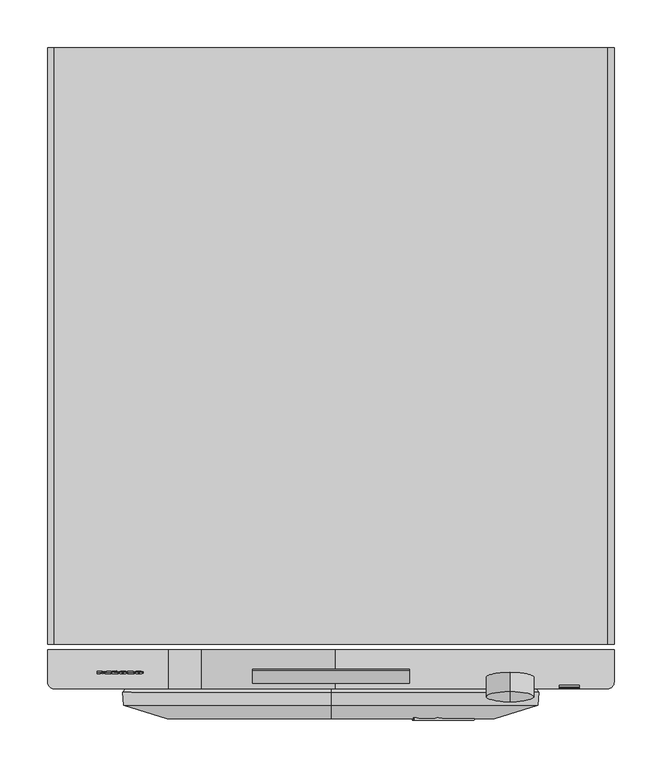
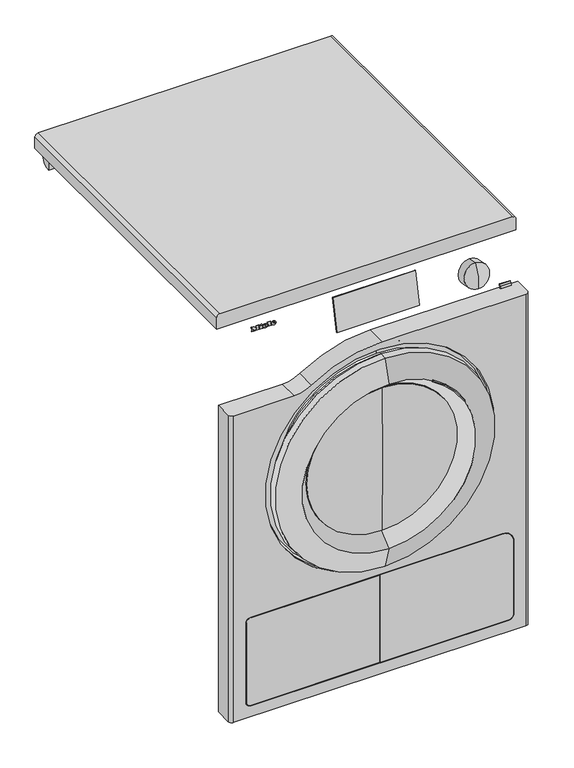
"""IFC4 building model written with IfcOpenShell, lengths in millimetres: proxy geometry, 11137100_RU_PDR507EL_SST : 52507452_RU_11137100_PDR507EL_SST."""

from ifc_helpers import new_model, si_unit, point, frame, frame_2d, origin, place, context, project, spatial, polyline, circle_curve, ellipse_curve, trimmed, segment, composite_curve, outline, extrude, source, transform, mapped, element, save
from ifc_brep_helpers import plane_surface, cylinder_surface, revolved_surface, extruded_surface, advanced_brep


def specialty_equipment_d1bbccee(model_context):
    return source(origin(), model_context, "Body", "SolidModel", [
        advanced_brep(
        [(-202.64, -660.6785086, 811.5729364), (-202.64, -660.5105159, 812.3632796), (-197.288, -660.5105159, 812.3632796), (-206.6, -660.5105159, 812.3632796), (-204.4, -661.0727091, 809.7183685), (-197.424, -660.6785086, 811.5729364), (-199.84, -660.6785086, 811.5729364), (-201.744, -660.8647975, 810.6965161), (-202.64, -660.2976144, 813.3649028), (-202.64, -660.1163154, 814.2178475), (-201.272, -660.1163154, 814.2178475), (-201.272, -660.2976144, 813.3649028), (-202.64, -659.700361, 811.3650247), (-201.744, -659.8866499, 810.4886044), (-199.84, -659.700361, 811.3650247), (-197.424, -659.700361, 811.3650247), (-204.4, -660.0945615, 809.5104568), (-206.6, -659.5323683, 812.1553679), (-197.288, -659.5323683, 812.1553679), (-202.64, -659.5323683, 812.1553679), (-202.64, -659.3194668, 813.1569911), (-201.272, -659.3194668, 813.1569911), (-201.272, -659.1381678, 814.0099358), (-202.64, -659.1381678, 814.0099358)],
        [
            (0, 1),
            (1, 2),
            (2, 3, ellipse_curve(frame((-201.944, -660.5105159, 812.3632796), z_axis=(0.0, -0.9781476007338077, 0.2079116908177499), x_axis=(-1.0, 0.0, 0.0)), 4.656, 3.848)),
            (3, 4, circle_curve(frame((-203.5039564, -660.453964, 812.6293358), z_axis=(0.0, -0.9781476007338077, 0.2079116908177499), x_axis=(0.0, -0.2079116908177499, -0.9781476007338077)), 3.1079688)),
            (4, 5, circle_curve(frame((-202.0372064, -660.0148545, 814.6951835), z_axis=(0.0, -0.9781476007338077, 0.2079116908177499), x_axis=(0.0, -0.2079116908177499, -0.9781476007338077)), 5.6098607)),
            (5, 6),
            (6, 7, circle_curve(frame((-201.3529412, -660.5238223, 812.3006782), z_axis=(0.0, 0.9781476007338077, -0.2079116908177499), x_axis=(0.0, -0.2079116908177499, -0.9781476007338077)), 1.6859795)),
            (7, 0, circle_curve(frame((-201.744, -660.6785086, 811.5729364), z_axis=(0.0, 0.9781476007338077, -0.2079116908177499), x_axis=(0.0, -0.2079116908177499, -0.9781476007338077)), 0.896)),
            (8, 9),
            (9, 10, circle_curve(frame((-201.956, -660.1163154, 814.2178475), z_axis=(0.0, 0.9781476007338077, -0.2079116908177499), x_axis=(0.0, -0.2079116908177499, -0.9781476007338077)), 0.684)),
            (10, 11),
            (11, 8),
            (12, 13, circle_curve(frame((-201.744, -659.700361, 811.3650247), z_axis=(0.0, -0.9781476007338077, 0.2079116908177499), x_axis=(0.0, -0.2079116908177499, -0.9781476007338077)), 0.896)),
            (13, 14, circle_curve(frame((-201.3529412, -659.5456747, 812.0927665), z_axis=(0.0, -0.9781476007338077, 0.2079116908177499), x_axis=(0.0, -0.2079116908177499, -0.9781476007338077)), 1.6859795)),
            (14, 15),
            (15, 16, circle_curve(frame((-202.0372064, -659.0367069, 814.4872718), z_axis=(0.0, 0.9781476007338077, -0.2079116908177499), x_axis=(0.0, -0.2079116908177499, -0.9781476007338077)), 5.6098607)),
            (16, 17, circle_curve(frame((-203.5039564, -659.4758164, 812.4214241), z_axis=(0.0, 0.9781476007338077, -0.2079116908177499), x_axis=(0.0, -0.2079116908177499, -0.9781476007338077)), 3.1079688)),
            (17, 18, ellipse_curve(frame((-201.944, -659.5323683, 812.1553679), z_axis=(0.0, 0.9781476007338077, -0.2079116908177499), x_axis=(-1.0, 0.0, 0.0)), 4.656, 3.848)),
            (18, 19),
            (19, 12),
            (20, 21),
            (21, 22),
            (22, 23, circle_curve(frame((-201.956, -659.1381678, 814.0099358), z_axis=(0.0, -0.9781476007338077, 0.2079116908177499), x_axis=(0.0, -0.2079116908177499, -0.9781476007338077)), 0.684)),
            (23, 20),
            (0, 12),
            (19, 1),
            (18, 2),
            (5, 15),
            (14, 6),
            (17, 3),
            (13, 7),
            (16, 4),
            (8, 20),
            (23, 9),
            (22, 10),
            (21, 11),
        ],
        [
            plane_surface(frame((-202.64, -660.5105159, 812.3632796), z_axis=(0.0, -0.9781476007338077, 0.2079116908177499), x_axis=(0.0, 0.2079116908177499, 0.9781476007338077))),
            plane_surface(frame((-202.64, -659.5323683, 812.1553679), z_axis=(0.0, 0.9781476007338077, -0.2079116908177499), x_axis=(0.0, -0.2079116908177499, -0.9781476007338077))),
            plane_surface(frame((-202.64, -660.6785086, 811.5729364), z_axis=(1.0000000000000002, 0.0, 0.0), x_axis=(0.0, 0.978147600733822, -0.20791169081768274))),
            plane_surface(frame((-202.64, -660.5105159, 812.3632796), z_axis=(0.0, -0.20791169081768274, -0.978147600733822), x_axis=(0.0, 0.978147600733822, -0.20791169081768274))),
            plane_surface(frame((-197.424, -660.6785086, 811.5729364), z_axis=(0.0, 0.20791169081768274, 0.978147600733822), x_axis=(0.0, 0.978147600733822, -0.20791169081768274))),
            extruded_surface(trimmed(ellipse_curve(frame((-201.944, -658.5542207, 811.9474562), z_axis=(0.0, -0.9781476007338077, 0.2079116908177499), x_axis=(-1.0, 0.0, 0.0)), 4.656, 3.848), [point((-197.288, -658.5542207, 811.9474562))], [point((-206.6, -658.5542207, 811.9474562))], True, "CARTESIAN"), (0.0, -0.9781476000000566, 0.20791169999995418), 1.0000000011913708),
            revolved_surface(polyline([(-201.3529412, -659.896209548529, 810.4436296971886), (-201.3529412, -660.8743571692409, 810.6515413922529)]), (-201.3529412, -659.5456747, 812.0927665), (0.0, 0.9781476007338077, -0.2079116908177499)),
            revolved_surface(polyline([(-201.744, -659.8866498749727, 810.4886044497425), (-201.744, -660.8647974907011, 810.6965161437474)]), (-201.744, -659.700361, 811.3650247), (0.0, 0.9781476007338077, -0.2079116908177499)),
            cylinder_surface(frame((-203.5039564, -659.4758164, 812.4214241), z_axis=(0.0, -0.9781476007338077, 0.2079116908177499), x_axis=(0.0, -0.2079116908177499, -0.9781476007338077)), 3.1079688),
            cylinder_surface(frame((-202.0372064, -659.0367069, 814.4872718), z_axis=(0.0, -0.9781476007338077, 0.2079116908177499), x_axis=(0.0, -0.2079116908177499, -0.9781476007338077)), 5.6098607),
            plane_surface(frame((-202.64, -660.2976144, 813.3649028), z_axis=(1.0000000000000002, 0.0, 0.0), x_axis=(0.0, 0.9781476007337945, -0.20791169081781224))),
            revolved_surface(polyline([(-201.956, -659.2803793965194, 813.340882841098), (-201.956, -660.2585269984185, 813.5487945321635)]), (-201.956, -659.1381678, 814.0099358), (0.0, 0.9781476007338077, -0.2079116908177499)),
            plane_surface(frame((-201.272, -660.1163154, 814.2178475), z_axis=(-1.0000000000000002, 0.0, 0.0), x_axis=(0.0, 0.978147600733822, -0.20791169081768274))),
            plane_surface(frame((-201.272, -660.2976144, 813.3649028), z_axis=(0.0, 0.20791169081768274, 0.978147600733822), x_axis=(0.0, 0.978147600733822, -0.20791169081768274))),
        ],
        [
            (0, [[1, 2, 3, 4, 5, 6, 7, 8], [9, 10, 11, 12]]),
            (1, [[13, 14, 15, 16, 17, 18, 19, 20], [21, 22, 23, 24]]),
            (2, [[-1, 25, -20, 26]]),
            (3, [[-2, -26, -19, 27]]),
            (4, [[-6, 28, -15, 29]]),
            (5, [[-3, -27, -18, 30]]),
            (6, [[-7, -29, -14, 31]]),
            (7, [[-8, -31, -13, -25]]),
            (8, [[-4, -30, -17, 32]]),
            (9, [[-5, -32, -16, -28]]),
            (10, [[-9, 33, -24, 34]]),
            (11, [[-10, -34, -23, 35]]),
            (12, [[-11, -35, -22, 36]]),
            (13, [[-12, -36, -21, -33]]),
        ],
    ),
        advanced_brep(
        [(-219.336, -660.6785086, 811.5729364), (-219.336, -660.5105159, 812.3632796), (-213.984, -660.5105159, 812.3632796), (-223.296, -660.5105159, 812.3632796), (-221.096, -661.0727091, 809.7183685), (-214.12, -660.6785086, 811.5729364), (-216.536, -660.6785086, 811.5729364), (-218.44, -660.8647975, 810.6965161), (-219.336, -660.2976144, 813.3649028), (-219.336, -660.1163154, 814.2178475), (-217.968, -660.1163154, 814.2178475), (-217.968, -660.2976144, 813.3649028), (-219.336, -659.700361, 811.3650247), (-218.44, -659.8866499, 810.4886044), (-216.536, -659.700361, 811.3650247), (-214.12, -659.700361, 811.3650247), (-221.096, -660.0945615, 809.5104568), (-223.296, -659.5323683, 812.1553679), (-213.984, -659.5323683, 812.1553679), (-219.336, -659.5323683, 812.1553679), (-219.336, -659.3194668, 813.1569911), (-217.968, -659.3194668, 813.1569911), (-217.968, -659.1381678, 814.0099358), (-219.336, -659.1381678, 814.0099358)],
        [
            (0, 1),
            (1, 2),
            (2, 3, ellipse_curve(frame((-218.64, -660.5105159, 812.3632796), z_axis=(0.0, -0.9781476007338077, 0.2079116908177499), x_axis=(-1.0, 0.0, 0.0)), 4.656, 3.848)),
            (3, 4, circle_curve(frame((-220.1999564, -660.453964, 812.6293358), z_axis=(0.0, -0.9781476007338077, 0.2079116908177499), x_axis=(0.0, -0.2079116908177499, -0.9781476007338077)), 3.1079688)),
            (4, 5, circle_curve(frame((-218.7332064, -660.0148545, 814.6951835), z_axis=(0.0, -0.9781476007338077, 0.2079116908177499), x_axis=(0.0, -0.2079116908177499, -0.9781476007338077)), 5.6098607)),
            (5, 6),
            (6, 7, circle_curve(frame((-218.0489412, -660.5238223, 812.3006782), z_axis=(0.0, 0.9781476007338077, -0.2079116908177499), x_axis=(0.0, -0.2079116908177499, -0.9781476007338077)), 1.6859795)),
            (7, 0, circle_curve(frame((-218.44, -660.6785086, 811.5729364), z_axis=(0.0, 0.9781476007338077, -0.2079116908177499), x_axis=(0.0, -0.2079116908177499, -0.9781476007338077)), 0.896)),
            (8, 9),
            (9, 10, circle_curve(frame((-218.652, -660.1163154, 814.2178475), z_axis=(0.0, 0.9781476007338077, -0.2079116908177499), x_axis=(0.0, -0.2079116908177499, -0.9781476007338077)), 0.684)),
            (10, 11),
            (11, 8),
            (12, 13, circle_curve(frame((-218.44, -659.700361, 811.3650247), z_axis=(0.0, -0.9781476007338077, 0.2079116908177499), x_axis=(0.0, -0.2079116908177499, -0.9781476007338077)), 0.896)),
            (13, 14, circle_curve(frame((-218.0489412, -659.5456747, 812.0927665), z_axis=(0.0, -0.9781476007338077, 0.2079116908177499), x_axis=(0.0, -0.2079116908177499, -0.9781476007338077)), 1.6859795)),
            (14, 15),
            (15, 16, circle_curve(frame((-218.7332064, -659.0367069, 814.4872718), z_axis=(0.0, 0.9781476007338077, -0.2079116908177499), x_axis=(0.0, -0.2079116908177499, -0.9781476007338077)), 5.6098607)),
            (16, 17, circle_curve(frame((-220.1999564, -659.4758164, 812.4214241), z_axis=(0.0, 0.9781476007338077, -0.2079116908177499), x_axis=(0.0, -0.2079116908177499, -0.9781476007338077)), 3.1079688)),
            (17, 18, ellipse_curve(frame((-218.64, -659.5323683, 812.1553679), z_axis=(0.0, 0.9781476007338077, -0.2079116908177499), x_axis=(-1.0, 0.0, 0.0)), 4.656, 3.848)),
            (18, 19),
            (19, 12),
            (20, 21),
            (21, 22),
            (22, 23, circle_curve(frame((-218.652, -659.1381678, 814.0099358), z_axis=(0.0, -0.9781476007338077, 0.2079116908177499), x_axis=(0.0, -0.2079116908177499, -0.9781476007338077)), 0.684)),
            (23, 20),
            (0, 12),
            (19, 1),
            (18, 2),
            (5, 15),
            (14, 6),
            (17, 3),
            (13, 7),
            (16, 4),
            (8, 20),
            (23, 9),
            (22, 10),
            (21, 11),
        ],
        [
            plane_surface(frame((-219.336, -660.5105159, 812.3632796), z_axis=(0.0, -0.9781476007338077, 0.2079116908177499), x_axis=(0.0, 0.2079116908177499, 0.9781476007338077))),
            plane_surface(frame((-219.336, -659.5323683, 812.1553679), z_axis=(0.0, 0.9781476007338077, -0.2079116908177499), x_axis=(0.0, -0.2079116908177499, -0.9781476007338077))),
            plane_surface(frame((-219.336, -660.6785086, 811.5729364), z_axis=(1.0000000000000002, 0.0, 0.0), x_axis=(0.0, 0.978147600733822, -0.20791169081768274))),
            plane_surface(frame((-219.336, -660.5105159, 812.3632796), z_axis=(0.0, -0.20791169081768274, -0.978147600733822), x_axis=(0.0, 0.978147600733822, -0.20791169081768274))),
            plane_surface(frame((-214.12, -660.6785086, 811.5729364), z_axis=(0.0, 0.20791169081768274, 0.978147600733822), x_axis=(0.0, 0.978147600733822, -0.20791169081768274))),
            extruded_surface(trimmed(ellipse_curve(frame((-218.64, -658.5542207, 811.9474562), z_axis=(0.0, -0.9781476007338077, 0.2079116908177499), x_axis=(-1.0, 0.0, 0.0)), 4.656, 3.848), [point((-213.984, -658.5542207, 811.9474562))], [point((-223.296, -658.5542207, 811.9474562))], True, "CARTESIAN"), (0.0, -0.9781476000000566, 0.20791169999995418), 1.0000000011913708),
            revolved_surface(polyline([(-218.0489412, -659.896209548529, 810.4436296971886), (-218.0489412, -660.8743571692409, 810.6515413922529)]), (-218.0489412, -659.5456747, 812.0927665), (0.0, 0.9781476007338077, -0.2079116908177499)),
            revolved_surface(polyline([(-218.44, -659.8866498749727, 810.4886044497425), (-218.44, -660.8647974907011, 810.6965161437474)]), (-218.44, -659.700361, 811.3650247), (0.0, 0.9781476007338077, -0.2079116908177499)),
            cylinder_surface(frame((-220.1999564, -659.4758164, 812.4214241), z_axis=(0.0, -0.9781476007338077, 0.2079116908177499), x_axis=(0.0, -0.2079116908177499, -0.9781476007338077)), 3.1079688),
            cylinder_surface(frame((-218.7332064, -659.0367069, 814.4872718), z_axis=(0.0, -0.9781476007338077, 0.2079116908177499), x_axis=(0.0, -0.2079116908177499, -0.9781476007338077)), 5.6098607),
            plane_surface(frame((-219.336, -660.2976144, 813.3649028), z_axis=(1.0000000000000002, 0.0, 0.0), x_axis=(0.0, 0.9781476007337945, -0.20791169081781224))),
            revolved_surface(polyline([(-218.652, -659.2803793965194, 813.340882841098), (-218.652, -660.2585269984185, 813.5487945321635)]), (-218.652, -659.1381678, 814.0099358), (0.0, 0.9781476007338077, -0.2079116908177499)),
            plane_surface(frame((-217.968, -660.1163154, 814.2178475), z_axis=(-1.0000000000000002, 0.0, 0.0), x_axis=(0.0, 0.978147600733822, -0.20791169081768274))),
            plane_surface(frame((-217.968, -660.2976144, 813.3649028), z_axis=(0.0, 0.20791169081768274, 0.978147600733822), x_axis=(0.0, 0.978147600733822, -0.20791169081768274))),
        ],
        [
            (0, [[1, 2, 3, 4, 5, 6, 7, 8], [9, 10, 11, 12]]),
            (1, [[13, 14, 15, 16, 17, 18, 19, 20], [21, 22, 23, 24]]),
            (2, [[-1, 25, -20, 26]]),
            (3, [[-2, -26, -19, 27]]),
            (4, [[-6, 28, -15, 29]]),
            (5, [[-3, -27, -18, 30]]),
            (6, [[-7, -29, -14, 31]]),
            (7, [[-8, -31, -13, -25]]),
            (8, [[-4, -30, -17, 32]]),
            (9, [[-5, -32, -16, -28]]),
            (10, [[-9, 33, -24, 34]]),
            (11, [[-10, -34, -23, 35]]),
            (12, [[-11, -35, -22, 36]]),
            (13, [[-12, -36, -21, -33]]),
        ],
    ),
        extrude(outline(polyline([(0.0, 0.0), (-0.0109087, -2.9993294), (-1.4390416, -2.9920868), (-1.4315307, 0.0), (0.0, 0.0)])), frame((-228.08, -658.5294023, 816.873952), z_axis=(0.0, -0.9781476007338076, 0.20791169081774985), x_axis=(-0.42472021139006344, 0.18822758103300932, 0.8855411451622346)), (0.0, 0.0, 1.0), 1.0),
        extrude(outline(polyline([(-0.4933908, 2.4141097), (-2.7800844, -2.4601583), (-7.0459742, -0.4588766), (-7.4401146, -1.2990179), (-8.6568709, -0.728194), (-5.976037, 4.9862153), (-4.7592806, 4.4153913), (-5.1636142, 3.5535223), (-2.1941494, 2.16044), (-1.7898157, 3.0223091), (-0.4933908, 2.4141097)])), frame((-228.08, -658.5294023, 816.873952), z_axis=(0.0, -0.9781476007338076, 0.20791169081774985), x_axis=(-0.42472021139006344, 0.18822758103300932, 0.8855411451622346)), (0.0, 0.0, 1.0), 1.0),
        extrude(outline(polyline([(0.0, 0.0), (0.0, -1.3039999), (-5.504, -1.3039999), (-5.504, 5.352), (-6.488, 5.352), (-6.488, 6.696), (0.0, 6.696), (0.0, 5.352), (-0.96, 5.352), (-0.96, 0.0), (0.0, 0.0)])), frame((-213.536, -658.7023849, 816.0601332), z_axis=(0.0, -0.9781476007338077, 0.2079116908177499), x_axis=(-1.0, 0.0, 0.0)), (0.0, 0.0, 1.0), 1.0),
        extrude(outline(polyline([(0.0, 0.0), (0.0, -1.3039999), (-5.576, -1.3039999), (-7.92, 1.6960001), (-10.256, -1.3039999), (-15.128, -1.3039999), (-15.128, 0.0), (-14.112, 0.0), (-14.112, 5.352), (-15.128, 5.352), (-15.128, 6.696), (-8.744, 6.696), (-8.744, 5.352), (-9.728, 5.352), (-9.728, 1.8807777), (-6.136, 6.696), (-2.56, 1.9488753), (-2.56, 5.352), (-3.52, 5.352), (-3.52, 6.696), (0.0, 6.696), (0.0, 5.352), (-0.968, 5.352), (-0.968, 0.0), (0.0, 0.0)])), frame((-246.0, -658.7023849, 816.0601332), z_axis=(0.0, -0.9781476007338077, 0.2079116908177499), x_axis=(-1.0, 0.0, 0.0)), (0.0, 0.0, 1.0), 1.0),
        extrude(outline(composite_curve([segment(trimmed(circle_curve(frame_2d((579.5, 0.0)), 230.0), [point((386.3181818, 124.8230152))], [point((386.3181818, -124.8230152))], True, "CARTESIAN"), True, "CONTINUOUS"), segment(trimmed(circle_curve(frame_2d((469.5, 0.0)), 150.0), [point((386.3181818, -124.8230152))], [point((386.3181818, 124.8230152))], False, "CARTESIAN"), True, "CONTINUOUS")], self_intersect=False)), frame((0.0, -680.8, 0.0), z_axis=(0.0, 1.0, 0.0), x_axis=(0.0, 0.0, 1.0)), (0.0, 0.0, 1.0), 12.6),
        advanced_brep(
        [(86.55, -710.167863, 619.4089974), (86.55, -707.167863, 619.4089974), (149.9089974, -710.167863, 556.05), (149.9089974, -707.167863, 556.05)],
        [
            (0, 1, circle_curve(frame((86.55, -708.667863, 619.4089974), z_axis=(-0.8660254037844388, 0.0, 0.49999999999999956), x_axis=(0.0, 1.0, 0.0)), 1.5)),
            (1, 0, circle_curve(frame((86.55, -708.667863, 619.4089974), z_axis=(-0.8660254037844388, 0.0, 0.49999999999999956), x_axis=(0.0, 1.0, 0.0)), 1.5)),
            (2, 3, circle_curve(frame((149.9089974, -708.667863, 556.05), z_axis=(0.5000000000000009, 0.0, -0.8660254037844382), x_axis=(0.0, 1.0, 0.0)), 1.5)),
            (3, 2, circle_curve(frame((149.9089974, -708.667863, 556.05), z_axis=(0.5000000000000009, 0.0, -0.8660254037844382), x_axis=(0.0, 1.0, 0.0)), 1.5)),
            (2, 0, circle_curve(frame((0.0, -710.167863, 469.5), z_axis=(0.0, -1.0, 0.0), x_axis=(0.49999999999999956, 0.0, 0.8660254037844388)), 173.1)),
            (1, 3, circle_curve(frame((0.0, -707.167863, 469.5), z_axis=(0.0, 1.0, 0.0), x_axis=(0.49999999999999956, 0.0, 0.8660254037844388)), 173.1)),
        ],
        [
            plane_surface(frame((0.0, 1543.3738435, 469.5), z_axis=(-0.8660254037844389, 0.0, 0.4999999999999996), x_axis=(0.4999999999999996, 0.0, 0.8660254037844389))),
            plane_surface(frame((0.0, 1543.3738435, 469.5), z_axis=(0.5000000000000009, 0.0, -0.8660254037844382), x_axis=(0.8660254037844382, 0.0, 0.5000000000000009))),
            revolved_surface(trimmed(ellipse_curve(frame((86.55, -708.667863, 619.4089974), z_axis=(0.8660254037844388, 0.0, -0.49999999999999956), x_axis=(0.0, 1.0, 0.0)), 1.5, 1.5), [point((86.55, -710.167863, 619.4089974))], [point((86.55, -707.167863, 619.4089974))], True, "CARTESIAN"), (0.0, 1543.3738435, 469.5), (0.0, -1.0, 0.0)),
            revolved_surface(trimmed(ellipse_curve(frame((86.55, -708.667863, 619.4089974), z_axis=(0.8660254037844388, 0.0, -0.49999999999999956), x_axis=(0.0, 1.0, 0.0)), 1.5, 1.5), [point((86.55, -707.167863, 619.4089974))], [point((86.55, -710.167863, 619.4089974))], True, "CARTESIAN"), (0.0, 1543.3738435, 469.5), (0.0, -1.0, 0.0)),
        ],
        [
            (0, [[1, 2]]),
            (1, [[3, 4]]),
            (2, [[5, -2, 6, -3]]),
            (3, [[-6, -1, -5, -4]]),
        ],
    ),
        advanced_brep(
        [(0.0, -668.2, 319.5), (0.0, -668.2, 619.5), (0.0, -680.5454628, 619.5), (0.0, -680.5454628, 319.5), (0.0, -668.2, 305.5), (0.0, -668.2, 633.5), (0.0, -665.0, 294.0), (0.0, -665.0, 645.0), (0.0, -665.0, 262.2782663), (0.0, -665.0, 676.7217337), (0.0, -680.8, 249.3), (0.0, -680.8, 689.7), (0.0, -694.2157986, 250.5), (0.0, -694.2157986, 688.5), (0.0, -708.667863, 296.4), (0.0, -708.667863, 642.6)],
        [
            (0, 1, circle_curve(frame((0.0, -668.2, 469.5), z_axis=(0.0, 1.0, 0.0), x_axis=(0.0, 0.0, 1.0)), 150.0)),
            (1, 2),
            (2, 3, circle_curve(frame((0.0, -680.5454628, 469.5), z_axis=(0.0, -1.0, 0.0), x_axis=(0.0, 0.0, 1.0)), 150.0)),
            (3, 0),
            (1, 0, circle_curve(frame((0.0, -668.2, 469.5), z_axis=(0.0, 1.0, 0.0), x_axis=(0.0, 0.0, 1.0)), 150.0)),
            (3, 2, circle_curve(frame((0.0, -680.5454628, 469.5), z_axis=(0.0, -1.0, 0.0), x_axis=(0.0, 0.0, 1.0)), 150.0)),
            (4, 5, circle_curve(frame((0.0, -668.2, 469.5), z_axis=(0.0, 1.0, 0.0), x_axis=(0.0, 0.0, 1.0)), 164.0)),
            (5, 1),
            (0, 4),
            (5, 4, circle_curve(frame((0.0, -668.2, 469.5), z_axis=(0.0, 1.0, 0.0), x_axis=(0.0, 0.0, 1.0)), 164.0)),
            (6, 7, circle_curve(frame((0.0, -665.0, 469.5), z_axis=(0.0, 1.0, 0.0), x_axis=(0.0, 0.0, 1.0)), 175.5)),
            (7, 5),
            (4, 6),
            (7, 6, circle_curve(frame((0.0, -665.0, 469.5), z_axis=(0.0, 1.0, 0.0), x_axis=(0.0, 0.0, 1.0)), 175.5)),
            (8, 9, circle_curve(frame((0.0, -665.0, 469.5), z_axis=(0.0, 1.0, 0.0), x_axis=(0.0, 0.0, 1.0)), 207.2217337)),
            (9, 7),
            (6, 8),
            (9, 8, circle_curve(frame((0.0, -665.0, 469.5), z_axis=(0.0, 1.0, 0.0), x_axis=(0.0, 0.0, 1.0)), 207.2217337)),
            (10, 11, circle_curve(frame((0.0, -680.8, 469.5), z_axis=(0.0, 1.0, 0.0), x_axis=(0.0, 0.0, 1.0)), 220.2)),
            (11, 9),
            (8, 10),
            (11, 10, circle_curve(frame((0.0, -680.8, 469.5), z_axis=(0.0, 1.0, 0.0), x_axis=(0.0, 0.0, 1.0)), 220.2)),
            (12, 13, circle_curve(frame((0.0, -694.2157986, 469.5), z_axis=(0.0, 1.0, 0.0), x_axis=(0.0, 0.0, 1.0)), 219.0)),
            (13, 11),
            (10, 12),
            (13, 12, circle_curve(frame((0.0, -694.2157986, 469.5), z_axis=(0.0, 1.0, 0.0), x_axis=(0.0, 0.0, 1.0)), 219.0)),
            (14, 15, circle_curve(frame((0.0, -708.667863, 469.5), z_axis=(0.0, 1.0, 0.0), x_axis=(0.0, 0.0, 1.0)), 173.1)),
            (15, 13, circle_curve(frame((0.0, -129.6, 485.5), z_axis=(-1.0, 0.0, 0.0), x_axis=(0.0, 1.0, 0.0)), 600.0)),
            (12, 14, circle_curve(frame((0.0, -129.6, 453.5), z_axis=(-1.0, 0.0, 0.0), x_axis=(0.0, 1.0, 0.0)), 600.0)),
            (15, 14, circle_curve(frame((0.0, -708.667863, 469.5), z_axis=(0.0, 1.0, 0.0), x_axis=(0.0, 0.0, 1.0)), 173.1)),
            (2, 15),
            (14, 3),
        ],
        [
            revolved_surface(polyline([(0.0, -680.5454628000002, 619.5), (0.0, -668.2000000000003, 619.5)]), (0.0, 1543.3738435, 469.5), (0.0, -1.0, 0.0)),
            plane_surface(frame((0.0, -668.2, 469.5), z_axis=(0.0, 1.0, 0.0), x_axis=(0.0, 0.0, 1.0))),
            revolved_surface(polyline([(0.0, -668.2, 633.5), (0.0, -665.0, 645.0)]), (0.0, 1543.3738435, 469.5), (0.0, -1.0, 0.0)),
            plane_surface(frame((0.0, -665.0, 469.5), z_axis=(0.0, 1.0, 0.0), x_axis=(0.0, 0.0, 1.0))),
            revolved_surface(polyline([(0.0, -665.0, 676.7217337), (0.0, -680.8, 689.7)]), (0.0, 1543.3738435, 469.5), (0.0, -1.0, 0.0)),
            revolved_surface(polyline([(0.0, -680.8, 689.7), (0.0, -694.2157986, 688.5)]), (0.0, 1543.3738435, 469.5), (0.0, -1.0, 0.0)),
            revolved_surface(trimmed(ellipse_curve(frame((0.0, -129.6, 485.5), z_axis=(1.0, 0.0, 0.0), x_axis=(0.0, 1.0, 0.0)), 600.0, 600.0), [point((0.0, -694.2157986, 688.5))], [point((0.0, -708.667863, 642.6))], True, "CARTESIAN"), (0.0, 1543.3738435, 469.5), (0.0, -1.0, 0.0)),
            revolved_surface(polyline([(0.0, -708.667863, 642.6), (0.0, -680.5454628, 619.5)]), (0.0, 1543.3738435, 469.5), (0.0, -1.0, 0.0)),
        ],
        [
            (0, [[1, 2, 3, 4]]),
            (0, [[5, -4, 6, -2]]),
            (1, [[7, 8, -1, 9]]),
            (1, [[10, -9, -5, -8]]),
            (2, [[11, 12, -7, 13]]),
            (2, [[14, -13, -10, -12]]),
            (3, [[15, 16, -11, 17]]),
            (3, [[18, -17, -14, -16]]),
            (4, [[19, 20, -15, 21]]),
            (4, [[22, -21, -18, -20]]),
            (5, [[23, 24, -19, 25]]),
            (5, [[26, -25, -22, -24]]),
            (6, [[27, 28, -23, 29]]),
            (6, [[30, -29, -26, -28]]),
            (7, [[-3, 31, -27, 32]]),
            (7, [[-6, -32, -30, -31]]),
        ],
    ),
        advanced_brep(
        [(0.0, -681.3847498, 319.5), (0.0, -681.3847498, 619.5), (0.0, -684.2, 469.5), (0.0, -683.8865105, 319.5), (0.0, -683.8865105, 619.5), (0.0, -686.7, 469.5)],
        [
            (0, 1, circle_curve(frame((0.0, -681.3847498, 469.5), z_axis=(0.0, 1.0, 0.0), x_axis=(0.0, 0.0, 1.0)), 150.0)),
            (1, 2, circle_curve(frame((0.0, 3313.3, 469.5), z_axis=(1.0, 0.0, 0.0), x_axis=(0.0, 1.0, 0.0)), 3997.5)),
            (2, 0, circle_curve(frame((0.0, 3313.3, 469.5), z_axis=(1.0, 0.0, 0.0), x_axis=(0.0, 1.0, 0.0)), 3997.5)),
            (1, 0, circle_curve(frame((0.0, -681.3847498, 469.5), z_axis=(0.0, 1.0, 0.0), x_axis=(0.0, 0.0, 1.0)), 150.0)),
            (3, 4, circle_curve(frame((0.0, -683.8865105, 469.5), z_axis=(0.0, 1.0, 0.0), x_axis=(0.0, 0.0, 1.0)), 150.0)),
            (4, 1),
            (0, 3),
            (4, 3, circle_curve(frame((0.0, -683.8865105, 469.5), z_axis=(0.0, 1.0, 0.0), x_axis=(0.0, 0.0, 1.0)), 150.0)),
            (5, 4, circle_curve(frame((0.0, 3313.3, 469.5), z_axis=(-1.0, 0.0, 0.0), x_axis=(0.0, 1.0, 0.0)), 4000.0)),
            (3, 5, circle_curve(frame((0.0, 3313.3, 469.5), z_axis=(-1.0, 0.0, 0.0), x_axis=(0.0, 1.0, 0.0)), 4000.0)),
        ],
        [
            revolved_surface(trimmed(ellipse_curve(frame((0.0, 3313.3, 469.5), z_axis=(-1.0, 0.0, 0.0), x_axis=(0.0, 1.0, 0.0)), 3997.5, 3997.5), [point((0.0, -684.2, 469.5))], [point((0.0, -681.3847498, 619.5))], True, "CARTESIAN"), (0.0, 1543.3738435, 469.5), (0.0, -1.0, 0.0)),
            cylinder_surface(frame((0.0, 1543.3738435, 469.5), z_axis=(0.0, -1.0, 0.0), x_axis=(0.0, 0.0, 1.0)), 150.0),
            revolved_surface(trimmed(ellipse_curve(frame((0.0, 3313.3, 469.5), z_axis=(1.0, 0.0, 0.0), x_axis=(0.0, 1.0, 0.0)), 4000.0, 4000.0), [point((0.0, -683.8865105, 619.5))], [point((0.0, -686.7, 469.5))], True, "CARTESIAN"), (0.0, 1543.3738435, 469.5), (0.0, -1.0, 0.0)),
        ],
        [
            (0, [[1, 2, 3]]),
            (0, [[4, -3, -2]]),
            (1, [[5, 6, -1, 7]]),
            (1, [[8, -7, -4, -6]]),
            (2, [[9, -5, 10]]),
            (2, [[-10, -8, -9]]),
        ],
    ),
        extrude(outline(composite_curve([segment(polyline([(815.0, 298.0), (838.0, 298.0)]), True, "CONTINUOUS"), segment(trimmed(circle_curve(frame_2d((838.0, 291.0)), 7.0), [point((838.0, 298.0))], [point((845.0, 291.0))], False, "CARTESIAN"), True, "CONTINUOUS"), segment(polyline([(845.0, 291.0), (845.0, -291.0)]), True, "CONTINUOUS"), segment(trimmed(circle_curve(frame_2d((838.0, -291.0)), 7.0), [point((845.0, -291.0))], [point((838.0, -298.0))], False, "CARTESIAN"), True, "CONTINUOUS"), segment(polyline([(838.0, -298.0), (815.0, -298.0), (815.0, 298.0)]), True, "CONTINUOUS")], self_intersect=False)), frame((0.0, -630.0, 0.0), z_axis=(0.0, 1.0, 0.0), x_axis=(0.0, 0.0, 1.0)), (0.0, 0.0, 1.0), 627.0),
        extrude(outline(composite_curve([segment(polyline([(-12.6220839, 815.0), (-12.6220839, 806.1251898)]), True, "CONTINUOUS"), segment(trimmed(circle_curve(frame_2d((-35.0, 806.1251898)), 22.3779161), [point((-12.6220839, 806.1251898))], [point((-34.0, 783.7696284))], False, "CARTESIAN"), True, "CONTINUOUS"), segment(polyline([(-34.0, 783.7696284), (-34.0, 815.0), (-12.6220839, 815.0)]), True, "CONTINUOUS")], self_intersect=False)), frame((264.2, 0.0, 0.0), z_axis=(1.0, 0.0, 0.0), x_axis=(0.0, 1.0, 0.0)), (0.0, 0.0, 1.0), 24.0),
        extrude(outline(composite_curve([segment(polyline([(-34.0, 783.7696284), (-34.0, 815.0), (-12.6220839, 815.0), (-12.6220839, 806.1251898)]), True, "CONTINUOUS"), segment(trimmed(circle_curve(frame_2d((-35.0, 806.1251898)), 22.3779161), [point((-12.6220839, 806.1251898))], [point((-34.0, 783.7696284))], False, "CARTESIAN"), True, "CONTINUOUS")], self_intersect=False)), frame((-288.2, 0.0, 0.0), z_axis=(1.0, 0.0, 0.0), x_axis=(0.0, 1.0, 0.0)), (0.0, 0.0, 1.0), 24.0),
        extrude(outline(composite_curve([segment(trimmed(circle_curve(frame_2d((427.0147084, 38.0)), 155.0), [point((311.4845296, 141.3333333))], [point((427.0147084, 193.0))], False, "CARTESIAN"), True, "CONTINUOUS"), segment(trimmed(circle_curve(frame_2d((387.1232766, 189.5231113)), 40.0426658), [point((427.0147084, 193.0))], [point((415.6484905, 161.421025))], False, "CARTESIAN"), True, "CONTINUOUS"), segment(trimmed(circle_curve(frame_2d((579.5, 0.0)), 230.0088355), [point((415.6484905, 161.421025))], [point((415.6783922, -161.4513711))], True, "CARTESIAN"), True, "CONTINUOUS"), segment(trimmed(circle_curve(frame_2d((387.1882141, -189.5293418)), 40.0007835), [point((415.6783922, -161.4513711))], [point((427.0381479, -192.9999982))], False, "CARTESIAN"), True, "CONTINUOUS"), segment(trimmed(circle_curve(frame_2d((427.0147084, -38.0)), 155.0), [point((427.0381479, -192.9999982))], [point((311.4845296, -141.3333333))], False, "CARTESIAN"), True, "CONTINUOUS"), segment(trimmed(circle_curve(frame_2d((469.5, 0.0)), 212.0), [point((311.4845296, -141.3333333))], [point((311.4845296, 141.3333333))], False, "CARTESIAN"), True, "CONTINUOUS")], self_intersect=False)), frame((0.0, -669.0, 0.0), z_axis=(0.0, 1.0, 0.0), x_axis=(0.0, 0.0, 1.0)), (0.0, 0.0, 1.0), 33.0),
        advanced_brep(
        [(298.0, -636.0, 711.0), (298.0, -636.0, 13.5), (-298.0, -636.0, 13.5), (-298.0, -636.0, 658.0), (-170.4793435, -636.0, 658.0), (-135.8816811, -636.0, 668.4495268), (5.0, -636.0, 711.0), (141.3333333, -636.0, 311.4845296), (193.0, -636.0, 427.0147084), (193.0, -636.0, 511.9852916), (141.3333333, -636.0, 627.5154704), (-141.3333333, -636.0, 627.5154704), (-193.0, -636.0, 511.9852916), (-193.0, -636.0, 427.0147084), (-141.3333333, -636.0, 311.4845296), (257.0, -636.0, 37.0), (267.0, -636.0, 47.0), (267.0, -636.0, 200.0), (244.0, -636.0, 223.0), (-257.0, -636.0, 223.0), (-267.0, -636.0, 213.0), (-267.0, -636.0, 47.0), (-257.0, -636.0, 37.0), (-291.0, -677.0, 13.5), (291.0, -677.0, 13.5), (291.0, -677.0, 711.0), (5.0, -677.0, 711.0), (-135.8816811, -677.0, 668.4495268), (-170.4793435, -677.0, 658.0), (-291.0, -677.0, 658.0), (0.0, -677.0, 242.0), (0.0, -677.0, 697.0), (267.0, -677.0, 47.0), (257.0, -677.0, 37.0), (-257.0, -677.0, 37.0), (-267.0, -677.0, 47.0), (-267.0, -677.0, 213.0), (-257.0, -677.0, 223.0), (244.0, -677.0, 223.0), (267.0, -677.0, 200.0), (298.0, -670.0, 711.0), (-298.0, -670.0, 13.5), (-298.0, -670.0, 658.0), (298.0, -670.0, 13.5), (0.0, -665.2, 245.5), (0.0, -665.2, 693.5), (0.0, -665.2, 681.5), (141.3333333, -665.2, 627.5154704), (193.0, -665.2, 511.9852916), (193.0, -665.2, 427.0147084), (141.3333333, -665.2, 311.4845296), (0.0, -665.2, 257.5), (0.0, -668.7, 697.0), (0.0, -668.7, 242.0), (-141.3333333, -665.2, 311.4845296), (-193.0, -665.2, 427.0147084), (-193.0, -665.2, 511.9852916), (-141.3333333, -665.2, 627.5154704)],
        [
            (0, 1),
            (1, 2),
            (2, 3),
            (3, 4),
            (4, 5, circle_curve(frame((-170.4793435, -636.0, 720.5), z_axis=(0.0, -1.0, 0.0), x_axis=(1.0, 0.0, 0.0)), 62.5)),
            (5, 6, circle_curve(frame((5.0, -636.0, 456.5), z_axis=(0.0, 1.0, 0.0), x_axis=(1.0, 0.0, 0.0)), 254.5)),
            (6, 0),
            (7, 8, circle_curve(frame((38.0, -636.0, 427.0147084), z_axis=(0.0, -1.0, 0.0), x_axis=(1.0, 0.0, 0.0)), 155.0)),
            (8, 9),
            (9, 10, circle_curve(frame((38.0, -636.0, 511.9852916), z_axis=(0.0, -1.0, 0.0), x_axis=(1.0, 0.0, 0.0)), 155.0)),
            (10, 11, circle_curve(frame((0.0, -636.0, 469.5), z_axis=(0.0, -1.0, 0.0), x_axis=(1.0, 0.0, 0.0)), 212.0)),
            (11, 12, circle_curve(frame((-38.0, -636.0, 511.9852916), z_axis=(0.0, -1.0, 0.0), x_axis=(1.0, 0.0, 0.0)), 155.0)),
            (12, 13),
            (13, 14, circle_curve(frame((-38.0, -636.0, 427.0147084), z_axis=(0.0, -1.0, 0.0), x_axis=(1.0, 0.0, 0.0)), 155.0)),
            (14, 7, circle_curve(frame((0.0, -636.0, 469.5), z_axis=(0.0, -1.0, 0.0), x_axis=(1.0, 0.0, 0.0)), 212.0)),
            (15, 16, circle_curve(frame((257.0, -636.0, 47.0), z_axis=(0.0, -1.0, 0.0), x_axis=(1.0, 0.0, 0.0)), 10.0)),
            (16, 17),
            (17, 18, circle_curve(frame((244.0, -636.0, 200.0), z_axis=(0.0, -1.0, 0.0), x_axis=(1.0, 0.0, 0.0)), 23.0)),
            (18, 19),
            (19, 20, circle_curve(frame((-257.0, -636.0, 213.0), z_axis=(0.0, -1.0, 0.0), x_axis=(1.0, 0.0, 0.0)), 10.0)),
            (20, 21),
            (21, 22, circle_curve(frame((-257.0, -636.0, 47.0), z_axis=(0.0, -1.0, 0.0), x_axis=(1.0, 0.0, 0.0)), 10.0)),
            (22, 15),
            (23, 24),
            (24, 25),
            (25, 26),
            (26, 27, circle_curve(frame((5.0, -677.0, 456.5), z_axis=(0.0, -1.0, 0.0), x_axis=(1.0, 0.0, 0.0)), 254.5)),
            (27, 28, circle_curve(frame((-170.4793435, -677.0, 720.5), z_axis=(0.0, 1.0, 0.0), x_axis=(1.0, 0.0, 0.0)), 62.5)),
            (28, 29),
            (29, 23),
            (30, 31, circle_curve(frame((0.0, -677.0, 469.5), z_axis=(0.0, 1.0, 0.0), x_axis=(0.0, 0.0, -1.0)), 227.5)),
            (31, 30, circle_curve(frame((0.0, -677.0, 469.5), z_axis=(0.0, 1.0, 0.0), x_axis=(0.0, 0.0, -1.0)), 227.5)),
            (32, 33, circle_curve(frame((257.0, -677.0, 47.0), z_axis=(0.0, 1.0, 0.0), x_axis=(1.0, 0.0, 0.0)), 10.0)),
            (33, 34),
            (34, 35, circle_curve(frame((-257.0, -677.0, 47.0), z_axis=(0.0, 1.0, 0.0), x_axis=(1.0, 0.0, 0.0)), 10.0)),
            (35, 36),
            (36, 37, circle_curve(frame((-257.0, -677.0, 213.0), z_axis=(0.0, 1.0, 0.0), x_axis=(1.0, 0.0, 0.0)), 10.0)),
            (37, 38),
            (38, 39, circle_curve(frame((244.0, -677.0, 200.0), z_axis=(0.0, 1.0, 0.0), x_axis=(1.0, 0.0, 0.0)), 23.0)),
            (39, 32),
            (40, 0),
            (6, 26),
            (25, 40, circle_curve(frame((291.0, -670.0, 711.0), z_axis=(0.0, 0.0, 1.0), x_axis=(-1.0, 0.0, 0.0)), 7.0)),
            (2, 41),
            (41, 42),
            (42, 3),
            (1, 43),
            (43, 24, circle_curve(frame((291.0, -670.0, 13.5), z_axis=(0.0, 0.0, -1.0), x_axis=(-1.0, 0.0, 0.0)), 7.0)),
            (23, 41, circle_curve(frame((-291.0, -670.0, 13.5), z_axis=(0.0, 0.0, -1.0), x_axis=(-1.0, 0.0, 0.0)), 7.0)),
            (40, 43),
            (29, 42, circle_curve(frame((-291.0, -670.0, 658.0), z_axis=(0.0, 0.0, -1.0), x_axis=(-1.0, 0.0, 0.0)), 7.0)),
            (5, 27),
            (4, 28),
            (44, 45, circle_curve(frame((0.0, -665.2, 469.5), z_axis=(0.0, -1.0, 0.0), x_axis=(0.0, 0.0, -1.0)), 224.0)),
            (45, 46),
            (46, 47, circle_curve(frame((0.0, -665.2, 469.5), z_axis=(0.0, 1.0, 0.0), x_axis=(1.0, 0.0, 0.0)), 212.0)),
            (47, 48, circle_curve(frame((38.0, -665.2, 511.9852916), z_axis=(0.0, 1.0, 0.0), x_axis=(1.0, 0.0, 0.0)), 155.0)),
            (48, 49),
            (49, 50, circle_curve(frame((38.0, -665.2, 427.0147084), z_axis=(0.0, 1.0, 0.0), x_axis=(1.0, 0.0, 0.0)), 155.0)),
            (50, 51, circle_curve(frame((0.0, -665.2, 469.5), z_axis=(0.0, 1.0, 0.0), x_axis=(1.0, 0.0, 0.0)), 212.0)),
            (51, 44),
            (31, 52),
            (52, 53, circle_curve(frame((0.0, -668.7, 469.5), z_axis=(0.0, 1.0, 0.0), x_axis=(0.0, 0.0, -1.0)), 227.5)),
            (53, 30),
            (45, 44, circle_curve(frame((0.0, -665.2, 469.5), z_axis=(0.0, -1.0, 0.0), x_axis=(0.0, 0.0, -1.0)), 224.0)),
            (51, 54, circle_curve(frame((0.0, -665.2, 469.5), z_axis=(0.0, 1.0, 0.0), x_axis=(1.0, 0.0, 0.0)), 212.0)),
            (54, 55, circle_curve(frame((-38.0, -665.2, 427.0147084), z_axis=(0.0, 1.0, 0.0), x_axis=(1.0, 0.0, 0.0)), 155.0)),
            (55, 56),
            (56, 57, circle_curve(frame((-38.0, -665.2, 511.9852916), z_axis=(0.0, 1.0, 0.0), x_axis=(1.0, 0.0, 0.0)), 155.0)),
            (57, 46, circle_curve(frame((0.0, -665.2, 469.5), z_axis=(0.0, 1.0, 0.0), x_axis=(1.0, 0.0, 0.0)), 212.0)),
            (53, 52, circle_curve(frame((0.0, -668.7, 469.5), z_axis=(0.0, 1.0, 0.0), x_axis=(0.0, 0.0, -1.0)), 227.5)),
            (53, 44, circle_curve(frame((0.0, -668.7, 245.5), z_axis=(1.0, 0.0, 0.0), x_axis=(0.0, 1.0, 0.0)), 3.5)),
            (45, 52, circle_curve(frame((0.0, -668.7, 693.5), z_axis=(1.0, 0.0, 0.0), x_axis=(0.0, 1.0, 0.0)), 3.5)),
            (7, 50),
            (49, 8),
            (48, 9),
            (47, 10),
            (57, 11),
            (56, 12),
            (55, 13),
            (54, 14),
            (32, 16),
            (15, 33),
            (39, 17),
            (38, 18),
            (37, 19),
            (36, 20),
            (35, 21),
            (34, 22),
        ],
        [
            plane_surface(frame((-298.0, -636.0, 711.0), z_axis=(0.0, 1.0, 0.0), x_axis=(1.0, 0.0, 0.0))),
            plane_surface(frame((-298.0, -677.0, 711.0), z_axis=(0.0, -1.0, 0.0), x_axis=(-1.0, 0.0, 0.0))),
            plane_surface(frame((298.0, -677.0, 711.0), z_axis=(0.0, 0.0, 1.0), x_axis=(0.0, 1.0, 0.0))),
            plane_surface(frame((-298.0, -677.0, 711.0), z_axis=(-1.0, 0.0, 0.0), x_axis=(0.0, 1.0, 0.0))),
            plane_surface(frame((-298.0, -677.0, 13.5), z_axis=(0.0, 0.0, -1.0), x_axis=(0.0, 1.0, 0.0))),
            plane_surface(frame((298.0, -677.0, 13.5), z_axis=(1.0, 0.0, 0.0), x_axis=(0.0, 1.0, 0.0))),
            cylinder_surface(frame((-291.0, -670.0, 711.0), z_axis=(0.0, 0.0, -1.0), x_axis=(-1.0, 0.0, 0.0)), 7.0),
            cylinder_surface(frame((291.0, -670.0, 711.0), z_axis=(0.0, 0.0, -1.0), x_axis=(-1.0, 0.0, 0.0)), 7.0),
            cylinder_surface(frame((5.0, -636.0, 456.5), z_axis=(0.0, 1.0, 0.0), x_axis=(1.0, 0.0, 0.0)), 254.5),
            revolved_surface(polyline([(-107.9793435, -677.0, 720.5), (-107.9793435, -636.0, 720.5)]), (-170.4793435, -636.0, 720.5), (0.0, -1.0, 0.0)),
            plane_surface(frame((-298.0, -677.0, 658.0), z_axis=(0.0, 0.0, 1.0), x_axis=(0.0, 1.0, 0.0))),
            plane_surface(frame((0.0, -665.2, 469.5), z_axis=(0.0, -1.0, 0.0), x_axis=(0.0, 0.0, -1.0))),
            revolved_surface(polyline([(0.0, -668.7000000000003, 242.0), (0.0, -677.0, 242.0)]), (0.0, 1543.3738435, 469.5), (0.0, 1.0, 0.0)),
            revolved_surface(trimmed(ellipse_curve(frame((0.0, -668.7, 245.5), z_axis=(-1.0, 0.0, 0.0), x_axis=(0.0, 1.0, 0.0)), 3.5, 3.5), [point((0.0, -665.2, 245.5))], [point((0.0, -668.7, 242.0))], True, "CARTESIAN"), (0.0, 1543.3738435, 469.5), (0.0, 1.0, 0.0)),
            revolved_surface(polyline([(193.0, -665.2, 427.0147084), (193.0, -636.0, 427.0147084)]), (38.0, -636.0, 427.0147084), (0.0, -1.0, 0.0)),
            plane_surface(frame((193.0, -677.0, 427.0147084), z_axis=(-1.0, 0.0, 0.0), x_axis=(0.0, 1.0, 0.0))),
            revolved_surface(polyline([(193.0, -665.2, 511.9852916), (193.0, -636.0, 511.9852916)]), (38.0, -636.0, 511.9852916), (0.0, -1.0, 0.0)),
            revolved_surface(polyline([(212.0, -665.2, 469.5), (212.0, -636.0, 469.5)]), (0.0, -636.0, 469.5), (0.0, -1.0, 0.0)),
            revolved_surface(polyline([(117.0, -665.2, 511.9852916), (117.0, -636.0, 511.9852916)]), (-38.0, -636.0, 511.9852916), (0.0, -1.0, 0.0)),
            plane_surface(frame((-193.0, -677.0, 511.9852916), z_axis=(1.0, 0.0, 0.0), x_axis=(0.0, 1.0, 0.0))),
            revolved_surface(polyline([(117.0, -665.2, 427.0147084), (117.0, -636.0, 427.0147084)]), (-38.0, -636.0, 427.0147084), (0.0, -1.0, 0.0)),
            revolved_surface(polyline([(267.0, -677.0, 47.0), (267.0, -636.0, 47.0)]), (257.0, -636.0, 47.0), (0.0, -1.0, 0.0)),
            plane_surface(frame((267.0, -677.0, 47.0), z_axis=(-1.0, 0.0, 0.0), x_axis=(0.0, 1.0, 0.0))),
            revolved_surface(polyline([(267.0, -677.0, 200.0), (267.0, -636.0, 200.0)]), (244.0, -636.0, 200.0), (0.0, -1.0, 0.0)),
            plane_surface(frame((244.0, -677.0, 223.0), z_axis=(0.0, 0.0, -1.0), x_axis=(0.0, 1.0, 0.0))),
            revolved_surface(polyline([(-247.0, -677.0, 213.0), (-247.0, -636.0, 213.0)]), (-257.0, -636.0, 213.0), (0.0, -1.0, 0.0)),
            plane_surface(frame((-267.0, -677.0, 213.0), z_axis=(1.0, 0.0, 0.0), x_axis=(0.0, 1.0, 0.0))),
            revolved_surface(polyline([(-247.0, -677.0, 47.0), (-247.0, -636.0, 47.0)]), (-257.0, -636.0, 47.0), (0.0, -1.0, 0.0)),
            plane_surface(frame((-257.0, -677.0, 37.0), z_axis=(0.0, 0.0, 1.0), x_axis=(0.0, 1.0, 0.0))),
        ],
        [
            (0, [[1, 2, 3, 4, 5, 6, 7], [8, 9, 10, 11, 12, 13, 14, 15], [16, 17, 18, 19, 20, 21, 22, 23]]),
            (1, [[24, 25, 26, 27, 28, 29, 30], [31, 32], [33, 34, 35, 36, 37, 38, 39, 40]]),
            (2, [[41, -7, 42, -26, 43]]),
            (3, [[44, 45, 46, -3]]),
            (4, [[-2, 47, 48, -24, 49, -44]]),
            (5, [[-1, -41, 50, -47]]),
            (6, [[-49, -30, 51, -45]]),
            (7, [[-25, -48, -50, -43]]),
            (8, [[52, -27, -42, -6]]),
            (9, [[-52, -5, 53, -28]]),
            (10, [[-53, -4, -46, -51, -29]]),
            (11, [[54, 55, 56, 57, 58, 59, 60, 61]]),
            (12, [[62, 63, 64, -32]]),
            (11, [[65, -61, 66, 67, 68, 69, 70, -55]]),
            (12, [[-62, -31, -64, 71]]),
            (13, [[-71, 72, -65, 73]]),
            (13, [[-63, -73, -54, -72]]),
            (14, [[74, -59, 75, -8]]),
            (15, [[-75, -58, 76, -9]]),
            (16, [[-76, -57, 77, -10]]),
            (17, [[-77, -56, -70, 78, -11]]),
            (18, [[-78, -69, 79, -12]]),
            (19, [[-79, -68, 80, -13]]),
            (20, [[-80, -67, 81, -14]]),
            (17, [[-74, -15, -81, -66, -60]]),
            (21, [[82, -16, 83, -33]]),
            (22, [[-82, -40, 84, -17]]),
            (23, [[-84, -39, 85, -18]]),
            (24, [[-85, -38, 86, -19]]),
            (25, [[-86, -37, 87, -20]]),
            (26, [[-87, -36, 88, -21]]),
            (27, [[-88, -35, 89, -22]]),
            (28, [[-83, -23, -89, -34]]),
        ],
    ),
        advanced_brep(
        [(-1.0, -636.0, 222.0), (-1.0, -636.0, 38.0), (-257.0, -636.0, 38.0), (-266.0, -636.0, 47.0), (-266.0, -636.0, 213.0), (-257.0, -636.0, 222.0), (-1.0, -677.0, 38.0), (-1.0, -677.0, 222.0), (-257.0, -677.0, 222.0), (-266.0, -677.0, 213.0), (-266.0, -677.0, 47.0), (-257.0, -677.0, 38.0)],
        [
            (0, 1),
            (1, 2),
            (2, 3, circle_curve(frame((-257.0, -636.0, 47.0), z_axis=(0.0, 1.0, 0.0), x_axis=(1.0, 0.0, 0.0)), 9.0)),
            (3, 4),
            (4, 5, circle_curve(frame((-257.0, -636.0, 213.0), z_axis=(0.0, 1.0, 0.0), x_axis=(1.0, 0.0, 0.0)), 9.0)),
            (5, 0),
            (6, 7),
            (7, 8),
            (8, 9, circle_curve(frame((-257.0, -677.0, 213.0), z_axis=(0.0, -1.0, 0.0), x_axis=(1.0, 0.0, 0.0)), 9.0)),
            (9, 10),
            (10, 11, circle_curve(frame((-257.0, -677.0, 47.0), z_axis=(0.0, -1.0, 0.0), x_axis=(1.0, 0.0, 0.0)), 9.0)),
            (11, 6),
            (6, 1),
            (0, 7),
            (11, 2),
            (10, 3),
            (9, 4),
            (8, 5),
        ],
        [
            plane_surface(frame((-298.0, -636.0, 711.0), z_axis=(0.0, 1.0, 0.0), x_axis=(1.0, 0.0, 0.0))),
            plane_surface(frame((-298.0, -677.0, 711.0), z_axis=(0.0, -1.0, 0.0), x_axis=(-1.0, 0.0, 0.0))),
            plane_surface(frame((-1.0, -677.0, 222.0), z_axis=(1.0, 0.0, 0.0), x_axis=(0.0, 1.0, 0.0))),
            plane_surface(frame((-1.0, -677.0, 38.0), z_axis=(0.0, 0.0, -1.0), x_axis=(0.0, 1.0, 0.0))),
            cylinder_surface(frame((-257.0, 0.0, 47.0), z_axis=(0.0, 1.0, 0.0), x_axis=(1.0, 0.0, 0.0)), 9.0),
            plane_surface(frame((-266.0, -677.0, 47.0), z_axis=(-1.0, 0.0, 0.0), x_axis=(0.0, 1.0, 0.0))),
            cylinder_surface(frame((-257.0, 0.0, 213.0), z_axis=(0.0, 1.0, 0.0), x_axis=(1.0, 0.0, 0.0)), 9.0),
            plane_surface(frame((-257.0, -677.0, 222.0), z_axis=(0.0, 0.0, 1.0), x_axis=(0.0, 1.0, 0.0))),
        ],
        [
            (0, [[1, 2, 3, 4, 5, 6]]),
            (1, [[7, 8, 9, 10, 11, 12]]),
            (2, [[13, -1, 14, -7]]),
            (3, [[-13, -12, 15, -2]]),
            (4, [[-15, -11, 16, -3]]),
            (5, [[-16, -10, 17, -4]]),
            (6, [[-17, -9, 18, -5]]),
            (7, [[-14, -6, -18, -8]]),
        ],
    ),
        advanced_brep(
        [(257.0, -636.0, 38.0), (1.0, -636.0, 38.0), (1.0, -636.0, 222.0), (244.0, -636.0, 222.0), (266.0, -636.0, 200.0), (266.0, -636.0, 47.0), (1.0, -677.0, 38.0), (257.0, -677.0, 38.0), (266.0, -677.0, 47.0), (266.0, -677.0, 200.0), (244.0, -677.0, 222.0), (1.0, -677.0, 222.0)],
        [
            (0, 1),
            (1, 2),
            (2, 3),
            (3, 4, circle_curve(frame((244.0, -636.0, 200.0), z_axis=(0.0, 1.0, 0.0), x_axis=(1.0, 0.0, 0.0)), 22.0)),
            (4, 5),
            (5, 0, circle_curve(frame((257.0, -636.0, 47.0), z_axis=(0.0, 1.0, 0.0), x_axis=(1.0, 0.0, 0.0)), 9.0)),
            (6, 7),
            (7, 8, circle_curve(frame((257.0, -677.0, 47.0), z_axis=(0.0, -1.0, 0.0), x_axis=(1.0, 0.0, 0.0)), 9.0)),
            (8, 9),
            (9, 10, circle_curve(frame((244.0, -677.0, 200.0), z_axis=(0.0, -1.0, 0.0), x_axis=(1.0, 0.0, 0.0)), 22.0)),
            (10, 11),
            (11, 6),
            (1, 6),
            (11, 2),
            (3, 10),
            (9, 4),
            (8, 5),
            (7, 0),
        ],
        [
            plane_surface(frame((-298.0, -636.0, 711.0), z_axis=(0.0, 1.0, 0.0), x_axis=(1.0, 0.0, 0.0))),
            plane_surface(frame((-298.0, -677.0, 711.0), z_axis=(0.0, -1.0, 0.0), x_axis=(-1.0, 0.0, 0.0))),
            plane_surface(frame((1.0, -677.0, 38.0), z_axis=(-1.0, 0.0, 0.0), x_axis=(0.0, 1.0, 0.0))),
            cylinder_surface(frame((244.0, 0.0, 200.0), z_axis=(0.0, 1.0, 0.0), x_axis=(1.0, 0.0, 0.0)), 22.0),
            plane_surface(frame((266.0, -677.0, 200.0), z_axis=(1.0, 0.0, 0.0), x_axis=(0.0, 1.0, 0.0))),
            cylinder_surface(frame((257.0, 0.0, 47.0), z_axis=(0.0, 1.0, 0.0), x_axis=(1.0, 0.0, 0.0)), 9.0),
            plane_surface(frame((257.0, -677.0, 38.0), z_axis=(0.0, 0.0, -1.0), x_axis=(0.0, 1.0, 0.0))),
            plane_surface(frame((1.0, -677.0, 222.0), z_axis=(0.0, 0.0, 1.0), x_axis=(0.0, 1.0, 0.0))),
        ],
        [
            (0, [[1, 2, 3, 4, 5, 6]]),
            (1, [[7, 8, 9, 10, 11, 12]]),
            (2, [[13, -12, 14, -2]]),
            (3, [[15, -10, 16, -4]]),
            (4, [[-16, -9, 17, -5]]),
            (5, [[18, -6, -17, -8]]),
            (6, [[-13, -1, -18, -7]]),
            (7, [[-14, -11, -15, -3]]),
        ],
    ),
        advanced_brep(
        [(188.5, -665.0968325, 786.0), (188.5, -670.2946248, 761.54631), (188.5, -659.8990403, 810.45369), (188.5, -680.1294216, 814.7537903), (188.5, -690.5250061, 765.8464103), (188.5, -690.5250061, 791.4049251)],
        [
            (0, 1),
            (1, 2, circle_curve(frame((188.5, -665.0968325, 786.0), z_axis=(0.0, 0.9781476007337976, -0.2079116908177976), x_axis=(0.0, -0.2079116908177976, -0.9781476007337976)), 25.0)),
            (2, 0),
            (2, 1, circle_curve(frame((188.5, -665.0968325, 786.0), z_axis=(0.0, 0.9781476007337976, -0.2079116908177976), x_axis=(0.0, -0.2079116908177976, -0.9781476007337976)), 25.0)),
            (3, 4, circle_curve(frame((188.5, -685.3272138, 790.3001003), z_axis=(0.0, -0.9781476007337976, 0.2079116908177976), x_axis=(0.0, -0.2079116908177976, -0.9781476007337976)), 25.0)),
            (4, 5),
            (5, 3),
            (4, 3, circle_curve(frame((188.5, -685.3272138, 790.3001003), z_axis=(0.0, -0.9781476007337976, 0.2079116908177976), x_axis=(0.0, -0.2079116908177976, -0.9781476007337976)), 25.0)),
            (1, 4),
            (3, 2),
        ],
        [
            plane_surface(frame((188.5, -665.0968325, 786.0), z_axis=(0.0, 0.9781476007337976, -0.2079116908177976), x_axis=(0.0, -0.2079116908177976, -0.9781476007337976))),
            revolved_surface(polyline([(188.5, -690.5250061, 791.4049251), (188.5, -690.5250061, 765.8464103)]), (188.5, -690.5250061, 791.4049251), (0.0, 0.9781476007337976, -0.2079116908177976)),
            cylinder_surface(frame((188.5, -690.5250061, 791.4049251), z_axis=(0.0, 0.9781476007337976, -0.2079116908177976), x_axis=(0.0, -0.2079116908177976, -0.9781476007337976)), 25.0),
        ],
        [
            (0, [[1, 2, 3]]),
            (0, [[-3, 4, -1]]),
            (1, [[5, 6, 7]]),
            (1, [[8, -7, -6]]),
            (2, [[-2, 9, -5, 10]]),
            (2, [[-4, -10, -8, -9]]),
        ],
    ),
        extrude(outline(polyline([(-674.9807127, 739.5), (-677.0253939, 739.5), (-675.9026757, 744.7819736), (-674.6352392, 747.5), (-673.2802602, 747.5), (-674.9807127, 739.5)])), frame((240.5, 0.0, 0.0), z_axis=(1.0, 0.0, 0.0), x_axis=(0.0, 1.0, 0.0)), (0.0, 0.0, 1.0), 21.0),
        extrude(outline(polyline([(-670.2386322, 757.0), (-671.2609728, 757.0), (-657.4447963, 822.0), (-656.4224557, 822.0), (-670.2386322, 757.0)])), frame((-82.5, 0.0, 0.0), z_axis=(1.0, 0.0, 0.0), x_axis=(0.0, 1.0, 0.0)), (0.0, 0.0, 1.0), 165.0),
    ])


if __name__ == "__main__":
    model = new_model("IFC4")
    model_context = context("Model", 3, world=origin())
    ifc_project = project(units=[si_unit("LENGTHUNIT", "METRE", prefix="MILLI")], contexts=[model_context])
    site = spatial("IfcSite", under=ifc_project)
    building = spatial("IfcBuilding", under=site)
    placement = place(None, origin())
    specialty_equipment_shape = specialty_equipment_d1bbccee(model_context)
    element("IfcBuildingElementProxy", 1, Name="11137100_RU_PDR507EL_SST : 52507452_RU_11137100_PDR507EL_SST", ObjectType="11137100_RU_PDR507EL_SST : 52507452_RU_11137100_PDR507EL_SST", at=placement, inside=building, context=model_context, shape_type="MappedRepresentation", body=[
        mapped(specialty_equipment_shape, transform((0.0, 0.0, 0.0), x_axis=(1.0, 0.0, 0.0), y_axis=(0.0, 1.0, 0.0), z_axis=(0.0, 0.0, 1.0))),
    ])
    save(model, "model.ifc")
